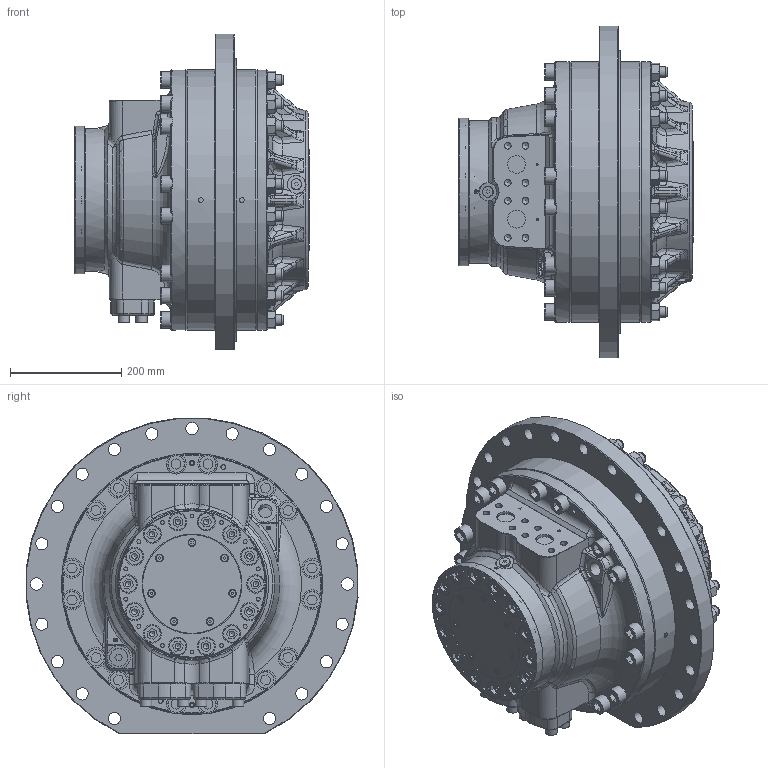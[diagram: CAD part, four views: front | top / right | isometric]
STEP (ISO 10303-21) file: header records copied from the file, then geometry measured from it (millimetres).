
FILE_DESCRIPTION(/* description */ (''),/* implementation_level */ '2;1');
FILE_NAME(/* name */ 'X20-BBBB-1N01-1A-1-F-G_20240315.stp',/* time_stamp */ '2024-03-15T13:46:02+02:00',/* author */ (''),/* organization */ (''),/* preprocessor_version */ 'ST-DEVELOPER v16.7',/* originating_system */ 'SIEMENS PLM Software NX 12.0',/* authorisation */ '');
FILE_SCHEMA (('AUTOMOTIVE_DESIGN { 1 0 10303 214 3 1 1 1 }'));
Products named in the file (1): kall13147732e0dn
Bounding box: 422.9 x 598.16 x 568.87 mm (x, y, z)
Volume: 50105640.9 mm3; surface area: 1670134.3 mm2
Topology: 11 solids, 42 shells, 3522 faces, 8885 edges, 5747 vertices
Faces by surface type: plane 1651, cylinder 632, cone 550, bspline 400, extrusion 157, torus 128, sphere 4
Full cylindrical faces by diameter (mm): 4.2 x6, 5 x9, 6 x7, 6.8 x14, 7 x7, 8.5 x8, 10 x18, 11.79 x4, 11.8 x4, 12 x23, 13.1 x4, 13.682 x8, 15 x8, 19 x4, 19.623 x31, 21 x22, 22 x30, 23.76 x1, 24.5 x2, 26.4 x1, 30 x31, 31.8 x4, 32 x1, 33 x16, 35.7 x2, 42 x2, 44.5 x4, 85 x1, 99 x1, 100 x3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
Entity records: 120678 total; most frequent: CARTESIAN_POINT 45010, ORIENTED_EDGE 15424, DIRECTION 13618, EDGE_CURVE 7712, AXIS2_PLACEMENT_3D 5470, VERTEX_POINT 5190, EDGE_LOOP 4469, ADVANCED_FACE 3517
